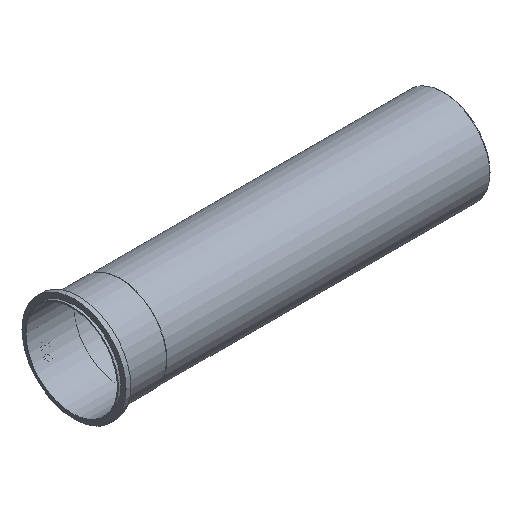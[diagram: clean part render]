
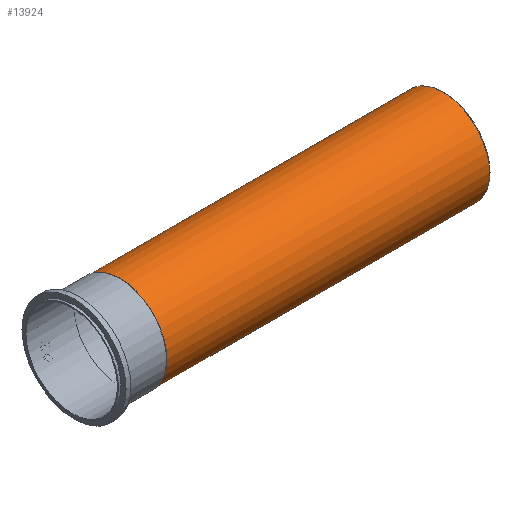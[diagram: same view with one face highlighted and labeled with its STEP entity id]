
A CAD part, isometric view. The second image highlights one B-rep face of the part: STEP entity #13924.
In plain terms, the highlighted cylindrical face has radius 62.484 mm (diameter 124.968 mm), a full revolution.
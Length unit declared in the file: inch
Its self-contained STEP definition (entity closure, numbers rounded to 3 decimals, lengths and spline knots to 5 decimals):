
#13893=CARTESIAN_POINT('',(2.56,2.46,0.0));
#13894=VERTEX_POINT('',#13893);
#13895=CARTESIAN_POINT('',(2.56,0.0,0.0));
#13896=DIRECTION('',(1.0,0.0,0.0));
#13897=DIRECTION('',(0.0,1.0,0.0));
#13898=AXIS2_PLACEMENT_3D('',#13895,#13896,#13897);
#13899=CIRCLE('',#13898,2.46);
#13900=EDGE_CURVE('',#13894,#13894,#13899,.T.);
#13905=CARTESIAN_POINT('',(11.12252,0.0,0.0));
#13906=DIRECTION('',(1.0,0.0,0.0));
#13907=DIRECTION('',(0.0,1.0,0.0));
#13908=AXIS2_PLACEMENT_3D('',#13905,#13906,#13907);
#13909=CYLINDRICAL_SURFACE('',#13908,2.46);
#13910=CARTESIAN_POINT('',(19.68504,2.46,0.0));
#13911=VERTEX_POINT('',#13910);
#13912=CARTESIAN_POINT('',(19.68504,0.0,0.0));
#13913=DIRECTION('',(1.0,0.0,0.0));
#13914=DIRECTION('',(0.0,1.0,0.0));
#13915=AXIS2_PLACEMENT_3D('',#13912,#13913,#13914);
#13916=CIRCLE('',#13915,2.46);
#13917=EDGE_CURVE('',#13911,#13911,#13916,.T.);
#13918=ORIENTED_EDGE('',*,*,#13917,.F.);
#13919=EDGE_LOOP('',(#13918));
#13920=FACE_OUTER_BOUND('',#13919,.T.);
#13921=ORIENTED_EDGE('',*,*,#13900,.T.);
#13922=EDGE_LOOP('',(#13921));
#13923=FACE_BOUND('',#13922,.T.);
#13924=ADVANCED_FACE('',(#13920,#13923),#13909,.T.);
